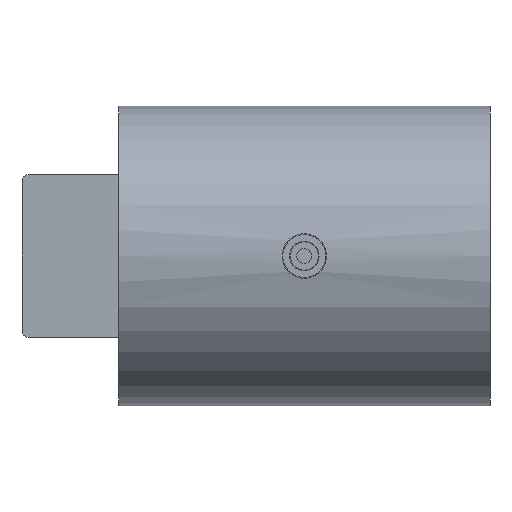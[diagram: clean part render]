
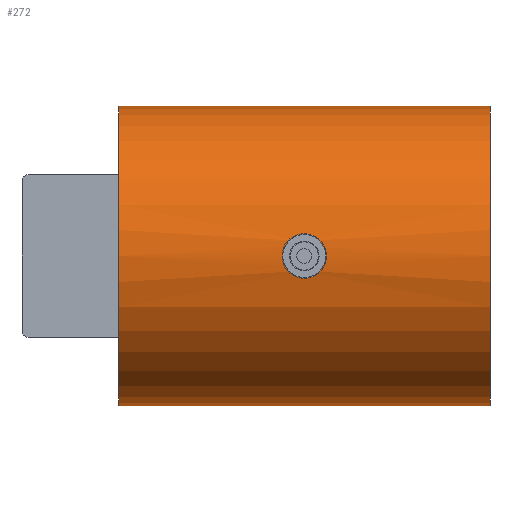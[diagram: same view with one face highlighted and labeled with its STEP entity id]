
A CAD part, front view. The second image highlights one B-rep face of the part: STEP entity #272.
In plain terms, the highlighted cylindrical face has radius 100.8 mm (diameter 201.6 mm), a full revolution.
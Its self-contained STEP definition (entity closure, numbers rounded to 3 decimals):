
#237=CYLINDRICAL_SURFACE('',#1014,100.8);
#266=B_SPLINE_CURVE_WITH_KNOTS('',3,(#1426,#1427,#1428,#1429,#1430,#1431,
#1432,#1433,#1434,#1435,#1436,#1437,#1438,#1439,#1440,#1441,#1442,#1443),
 .UNSPECIFIED.,.T.,.F.,(2,2,2,2,2,2,2,2,2,2,2),(-0.125,0.,0.125,0.25,0.375,
0.5,0.625,0.75,0.875,1.,1.125),.UNSPECIFIED.);
#267=B_SPLINE_CURVE_WITH_KNOTS('',3,(#1445,#1446,#1447,#1448,#1449,#1450,
#1451,#1452,#1453,#1454,#1455,#1456,#1457,#1458,#1459,#1460,#1461,#1462),
 .UNSPECIFIED.,.T.,.F.,(2,2,2,2,2,2,2,2,2,2,2),(-0.125,0.,0.125,0.25,0.375,
0.5,0.625,0.75,0.875,1.,1.125),.UNSPECIFIED.);
#272=ADVANCED_FACE('',(#375,#376,#377,#378),#237,.T.);
#375=FACE_BOUND('',#453,.T.);
#376=FACE_BOUND('',#454,.T.);
#377=FACE_BOUND('',#455,.T.);
#378=FACE_BOUND('',#456,.T.);
#453=EDGE_LOOP('',(#561));
#454=EDGE_LOOP('',(#562));
#455=EDGE_LOOP('',(#563));
#456=EDGE_LOOP('',(#564));
#561=ORIENTED_EDGE('',*,*,#851,.F.);
#562=ORIENTED_EDGE('',*,*,#852,.F.);
#563=ORIENTED_EDGE('',*,*,#847,.T.);
#564=ORIENTED_EDGE('',*,*,#849,.T.);
#769=VERTEX_POINT('',#1417);
#771=VERTEX_POINT('',#1422);
#773=VERTEX_POINT('',#1444);
#774=VERTEX_POINT('',#1463);
#847=EDGE_CURVE('',#769,#769,#953,.T.);
#849=EDGE_CURVE('',#771,#771,#955,.T.);
#851=EDGE_CURVE('',#773,#773,#266,.T.);
#852=EDGE_CURVE('',#774,#774,#267,.T.);
#953=CIRCLE('',#1008,100.8);
#955=CIRCLE('',#1011,100.8);
#1008=AXIS2_PLACEMENT_3D('',#1416,#1129,#1130);
#1011=AXIS2_PLACEMENT_3D('',#1421,#1135,#1136);
#1014=AXIS2_PLACEMENT_3D('',#1464,#1141,#1142);
#1129=DIRECTION('',(-1.,0.,0.));
#1130=DIRECTION('',(0.,0.,1.));
#1135=DIRECTION('',(1.,0.,0.));
#1136=DIRECTION('',(0.,0.,-1.));
#1141=DIRECTION('',(1.,0.,0.));
#1142=DIRECTION('',(0.,0.,-1.));
#1416=CARTESIAN_POINT('',(125.,-51.,125.));
#1417=CARTESIAN_POINT('',(125.,-51.,225.8));
#1421=CARTESIAN_POINT('',(-125.,-51.,125.));
#1422=CARTESIAN_POINT('',(-125.,-51.,24.2));
#1426=CARTESIAN_POINT('',(2.644,49.303,115.));
#1427=CARTESIAN_POINT('',(-2.644,49.303,115.));
#1428=CARTESIAN_POINT('',(-5.228,49.422,116.086));
#1429=CARTESIAN_POINT('',(-8.915,49.681,119.774));
#1430=CARTESIAN_POINT('',(-9.999,49.8,122.384));
#1431=CARTESIAN_POINT('',(-10.001,49.8,127.605));
#1432=CARTESIAN_POINT('',(-8.941,49.683,130.2));
#1433=CARTESIAN_POINT('',(-5.208,49.421,133.936));
#1434=CARTESIAN_POINT('',(-2.615,49.303,134.999));
#1435=CARTESIAN_POINT('',(2.607,49.303,135.001));
#1436=CARTESIAN_POINT('',(5.219,49.422,133.92));
#1437=CARTESIAN_POINT('',(8.91,49.681,130.236));
#1438=CARTESIAN_POINT('',(9.997,49.8,127.652));
#1439=CARTESIAN_POINT('',(10.003,49.8,122.367));
#1440=CARTESIAN_POINT('',(8.919,49.682,119.78));
#1441=CARTESIAN_POINT('',(5.234,49.422,116.089));
#1442=CARTESIAN_POINT('',(2.644,49.303,115.));
#1443=CARTESIAN_POINT('',(-2.644,49.303,115.));
#1444=CARTESIAN_POINT('',(0.,49.303,115.));
#1445=CARTESIAN_POINT('',(-2.644,-151.303,115.));
#1446=CARTESIAN_POINT('',(2.644,-151.303,115.));
#1447=CARTESIAN_POINT('',(5.228,-151.422,116.086));
#1448=CARTESIAN_POINT('',(8.915,-151.681,119.774));
#1449=CARTESIAN_POINT('',(9.999,-151.8,122.384));
#1450=CARTESIAN_POINT('',(10.001,-151.8,127.605));
#1451=CARTESIAN_POINT('',(8.941,-151.683,130.2));
#1452=CARTESIAN_POINT('',(5.208,-151.421,133.936));
#1453=CARTESIAN_POINT('',(2.615,-151.303,134.999));
#1454=CARTESIAN_POINT('',(-2.607,-151.303,135.001));
#1455=CARTESIAN_POINT('',(-5.219,-151.422,133.92));
#1456=CARTESIAN_POINT('',(-8.91,-151.681,130.236));
#1457=CARTESIAN_POINT('',(-9.997,-151.8,127.652));
#1458=CARTESIAN_POINT('',(-10.003,-151.8,122.367));
#1459=CARTESIAN_POINT('',(-8.919,-151.682,119.78));
#1460=CARTESIAN_POINT('',(-5.234,-151.422,116.089));
#1461=CARTESIAN_POINT('',(-2.644,-151.303,115.));
#1462=CARTESIAN_POINT('',(2.644,-151.303,115.));
#1463=CARTESIAN_POINT('',(0.,-151.303,115.));
#1464=CARTESIAN_POINT('',(-125.,-51.,125.));
